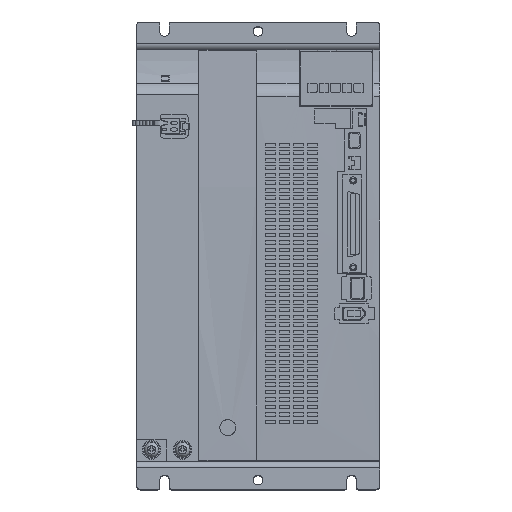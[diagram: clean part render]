
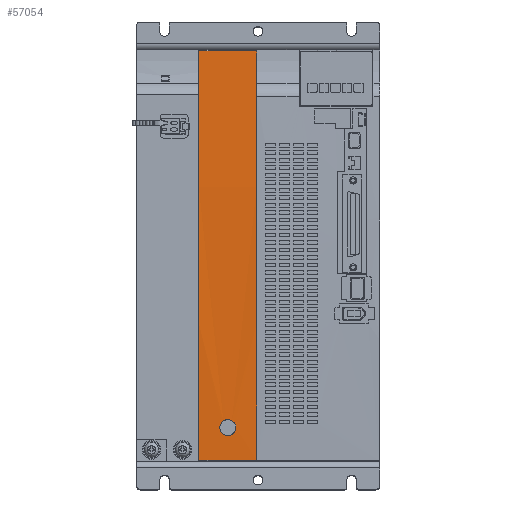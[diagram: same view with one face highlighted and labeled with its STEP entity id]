
A CAD part, top view. The second image highlights one B-rep face of the part: STEP entity #57054.
In plain terms, the highlighted cylindrical face has radius 3850.66 mm (diameter 7701.32 mm), a partial arc.
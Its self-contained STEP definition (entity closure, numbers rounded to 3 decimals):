
#38=B_SPLINE_CURVE_WITH_KNOTS('',3,(#81544,#81545,#81546,#81547,#81548,
#81549,#81550,#81551,#81552,#81553,#81554),.UNSPECIFIED.,.T.,.F.,(1,1,1,
1,1,1,1,1,1,1,1,1,1,1,1),(-0.01,-0.007,-0.003,
0.,0.003,0.007,0.01,0.013,
0.017,0.02,0.024,0.027,
0.03,0.034,0.037),.UNSPECIFIED.);
#73=CYLINDRICAL_SURFACE('',#60408,3850.66);
#387=CIRCLE('',#60409,3850.66);
#388=CIRCLE('',#60410,3850.66);
#1844=ORIENTED_EDGE('',*,*,#18352,.F.);
#1845=ORIENTED_EDGE('',*,*,#18353,.F.);
#1846=ORIENTED_EDGE('',*,*,#18354,.T.);
#1847=ORIENTED_EDGE('',*,*,#18355,.T.);
#1848=ORIENTED_EDGE('',*,*,#18356,.T.);
#18352=EDGE_CURVE('',#26605,#26606,#387,.T.);
#18353=EDGE_CURVE('',#26607,#26605,#32118,.T.);
#18354=EDGE_CURVE('',#26607,#26608,#388,.T.);
#18355=EDGE_CURVE('',#26608,#26606,#32119,.T.);
#18356=EDGE_CURVE('',#26609,#26609,#38,.T.);
#26605=VERTEX_POINT('',#81537);
#26606=VERTEX_POINT('',#81538);
#26607=VERTEX_POINT('',#81540);
#26608=VERTEX_POINT('',#81542);
#26609=VERTEX_POINT('',#81555);
#32118=LINE('',#81539,#39425);
#32119=LINE('',#81543,#39426);
#39425=VECTOR('',#65220,1000.);
#39426=VECTOR('',#65223,1000.);
#46318=EDGE_LOOP('',(#1844,#1845,#1846,#1847));
#46319=EDGE_LOOP('',(#1848));
#50242=FACE_BOUND('',#46318,.T.);
#50243=FACE_BOUND('',#46319,.T.);
#57054=ADVANCED_FACE('',(#50242,#50243),#73,.T.);
#60408=AXIS2_PLACEMENT_3D('',#81535,#65216,#65217);
#60409=AXIS2_PLACEMENT_3D('',#81536,#65218,#65219);
#60410=AXIS2_PLACEMENT_3D('',#81541,#65221,#65222);
#65216=DIRECTION('',(1.,0.,0.));
#65217=DIRECTION('',(0.,0.,-1.));
#65218=DIRECTION('',(1.,0.,0.));
#65219=DIRECTION('',(0.,0.,-1.));
#65220=DIRECTION('',(1.,0.,0.));
#65221=DIRECTION('',(1.,0.,0.));
#65222=DIRECTION('',(0.,0.,-1.));
#65223=DIRECTION('',(1.,0.,0.));
#81535=CARTESIAN_POINT('',(-31.67,0.,-3809.459));
#81536=CARTESIAN_POINT('',(-0.79,0.,-3809.459));
#81537=CARTESIAN_POINT('',(-0.79,109.417,39.647));
#81538=CARTESIAN_POINT('',(-0.79,-109.417,39.647));
#81539=CARTESIAN_POINT('',(-31.67,109.417,39.647));
#81540=CARTESIAN_POINT('',(-31.67,109.417,39.647));
#81541=CARTESIAN_POINT('',(-31.67,0.,-3809.459));
#81542=CARTESIAN_POINT('',(-31.67,-109.417,39.647));
#81543=CARTESIAN_POINT('',(-31.67,-109.417,39.647));
#81544=CARTESIAN_POINT('',(-19.567,-95.373,40.02));
#81545=CARTESIAN_POINT('',(-20.966,-91.999,40.103));
#81546=CARTESIAN_POINT('',(-19.568,-88.63,40.182));
#81547=CARTESIAN_POINT('',(-16.203,-87.235,40.213));
#81548=CARTESIAN_POINT('',(-12.831,-88.629,40.182));
#81549=CARTESIAN_POINT('',(-11.435,-91.999,40.103));
#81550=CARTESIAN_POINT('',(-12.827,-95.365,40.021));
#81551=CARTESIAN_POINT('',(-16.195,-96.766,39.985));
#81552=CARTESIAN_POINT('',(-19.567,-95.373,40.02));
#81553=CARTESIAN_POINT('',(-20.966,-91.999,40.103));
#81554=CARTESIAN_POINT('',(-19.568,-88.63,40.182));
#81555=CARTESIAN_POINT('',(-20.5,-92.,40.102));
